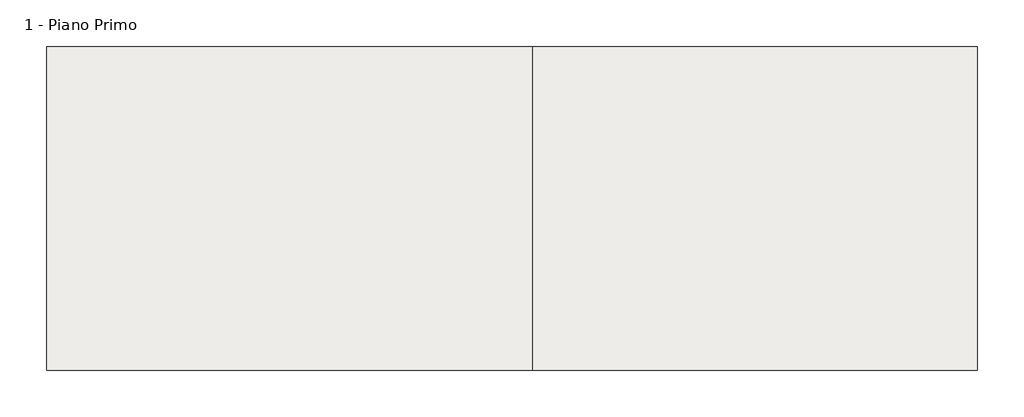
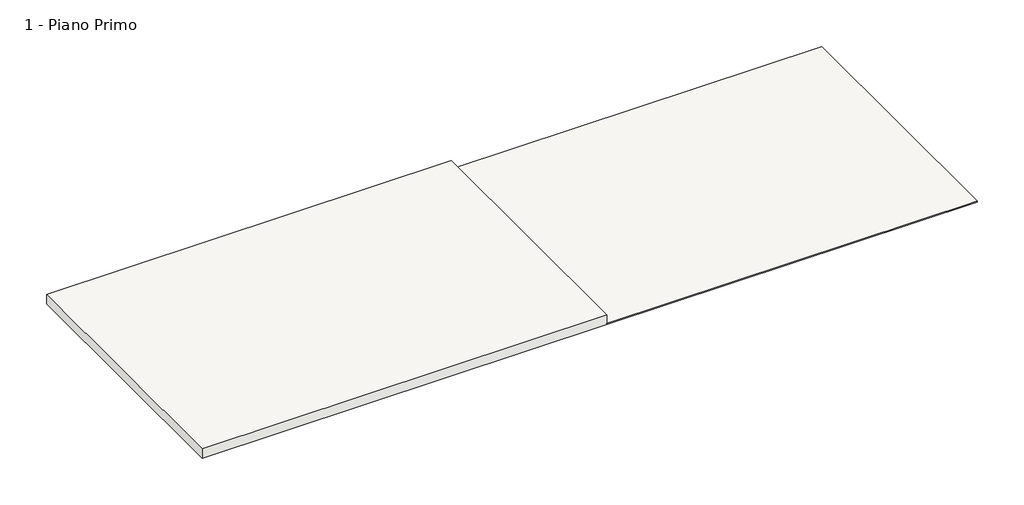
# One storey: 1 covering, 1 slab.
"""IFC4 building model written with IfcOpenShell, lengths in millimetres."""

from ifc_helpers import new_model, si_unit, frame, origin, place, context, project, spatial, polyline, outline, extrude, faceted_brep, element, save

model = new_model("IFC4")

# Units and contexts
model_context = context("Model", 3, world=origin())
ifc_project = project(units=[si_unit("LENGTHUNIT", "METRE", prefix="MILLI")], contexts=[model_context])

# Site, building, storey
site = spatial("IfcSite", under=ifc_project)
building = spatial("IfcBuilding", under=site)
storey = spatial("IfcBuildingStorey", under=building, Name="1 - Piano Primo", Elevation=4500.0)

# Covering
placement = place(None, origin())
element("IfcCovering", 1, ObjectType="Controsoffitto 3 cm", at=placement, inside=storey, context=model_context, shape_type="SweptSolid", body=[
    extrude(outline(polyline([(10394.5276397, 10149.7945472), (10394.5276397, 2149.7945472), (-605.4723603, 2149.7945472), (-605.4723603, 10149.7945472), (10394.5276397, 10149.7945472)])), frame((0.0, 0.0, 3500.0), z_axis=(0.0, 0.0, 1.0), x_axis=(1.0, 0.0, 0.0)), (0.0, 0.0, 1.0), 30.0),
])

# Slab
element("IfcSlab", 2, ObjectType="Latero Cementizio - 30 cm", at=placement, inside=storey, context=model_context, shape_type="Brep", body=[
    faceted_brep([(-605.4723603, 10149.7945472, 3500.0), (-605.4723603, 2149.7945472, 3500.0), (-12605.4723603, 2149.7945472, 3500.0), (-12605.4723603, 10149.7945472, 3500.0), (-1905.4723603, 4849.7945472, 3500.0), (-2505.4723603, 4849.7945472, 3500.0), (-2505.4723603, 4249.7945472, 3500.0), (-1905.4723603, 4249.7945472, 3500.0), (-605.4723603, 2149.7945472, 3800.0), (-605.4723603, 10149.7945472, 3800.0), (-12605.4723603, 10149.7945472, 3800.0), (-12605.4723603, 2149.7945472, 3800.0), (-2470.4723603, 4814.7945472, 3610.0), (-1940.4723603, 4814.7945472, 3610.0), (-1940.4723603, 4284.7945472, 3610.0), (-2470.4723603, 4284.7945472, 3610.0), (-2470.4723603, 4814.7945472, 3505.0), (-1940.4723603, 4814.7945472, 3505.0), (-1940.4723603, 4284.7945472, 3505.0), (-2470.4723603, 4284.7945472, 3505.0), (-2505.4723603, 4849.7945472, 3505.0), (-1905.4723603, 4849.7945472, 3505.0), (-1905.4723603, 4249.7945472, 3505.0), (-2505.4723603, 4249.7945472, 3505.0)], [[[0, 1, 2, 3], [4, 5, 6, 7]], [[8, 9, 10, 11]], [[1, 0, 9, 8]], [[2, 1, 8, 11]], [[3, 2, 11, 10]], [[0, 3, 10, 9]], [[12, 13, 14, 15]], [[13, 12, 16, 17]], [[14, 13, 17, 18]], [[15, 14, 18, 19]], [[12, 15, 19, 16]], [[20, 21, 22, 23], [17, 16, 19, 18]], [[21, 20, 5, 4]], [[22, 21, 4, 7]], [[23, 22, 7, 6]], [[20, 23, 6, 5]]]),
])

save(model, "model.ifc")
